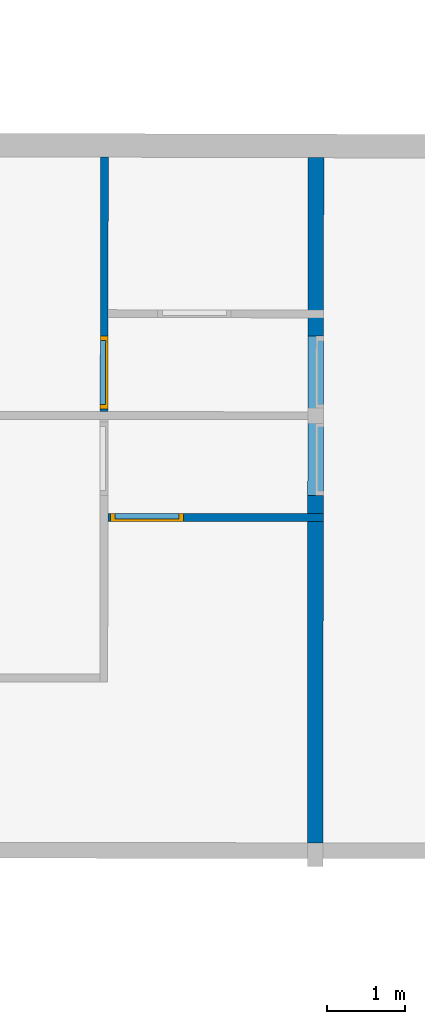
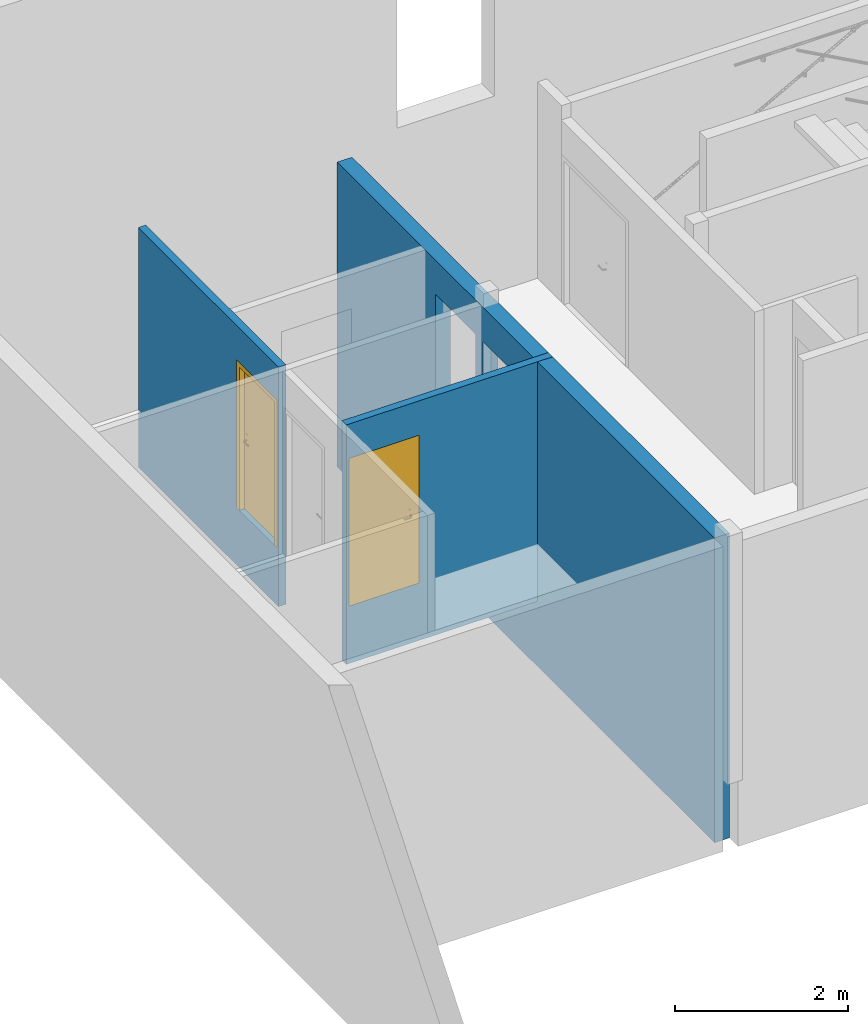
# One storey, part 6 of 24: 3 walls, 2 doors, 7 openings.
"""IFC2X3 building model written with IfcOpenShell, lengths in metres."""

from ifc_helpers import new_model, entity, si_unit, converted_unit, derived_unit, direction, frame, frame_2d, origin, place, context, subcontext, project, spatial, polyline, rectangle, outline, extrude, faceted_brep, source, transform, mapped, material, material_list, layer, layer_set, layer_usage, type_object, type_shapes, element, fill, save


model = new_model("IFC2X3")

# Units and contexts
model_context = context("Model", 3, precision=1e-05, world=origin(), true_north=direction((6.123233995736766e-17, 1.0)))
body_context = subcontext(model_context, "Body", "Model", "MODEL_VIEW")
ifc_project = project(units=[si_unit("LENGTHUNIT", "METRE"), si_unit("AREAUNIT", "SQUARE_METRE"), converted_unit("PLANEANGLEUNIT", "DEGREE", entity("IfcPlaneAngleMeasure", 0.017453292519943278), si_unit("PLANEANGLEUNIT", "RADIAN"), dimensions=[0, 0, 0, 0, 0, 0, 0]), derived_unit("THERMALTRANSMITTANCEUNIT", [(si_unit("MASSUNIT", "GRAM", prefix="KILO"), 1), (si_unit("THERMODYNAMICTEMPERATUREUNIT", "KELVIN"), -1), (si_unit("TIMEUNIT", "SECOND"), -3)])], contexts=[model_context])

# Site, building, storey
site_placement = place(None, frame((1253.6752467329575, 2072.143113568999, 91.49999999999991), z_axis=(0.0, 0.0, 1.0), x_axis=(0.7237211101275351, 0.6900925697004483, 0.0)))
site = spatial("IfcSite", under=ifc_project, at=site_placement, Name="Surface", CompositionType="ELEMENT")
building_placement = place(site_placement, origin())
building = spatial("IfcBuilding", under=site, at=building_placement, CompositionType="ELEMENT")
storey_placement = place(building_placement, frame((0.0, 0.0, -7.049999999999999)))
storey = spatial("IfcBuildingStorey", under=building, at=storey_placement, Name="R-1", CompositionType="ELEMENT", Elevation=-7.049999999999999)

# Wall, openings, door
ifc_material_1 = material(Name="OMD_Béton blanc")
ifc_layer_1 = layer(ifc_material_1, 0.1)
ifc_layer_set_1 = layer_set([ifc_layer_1], Name="Mur de base:MUR 10")
ifc_layer_usage_1 = layer_usage(ifc_layer_set_1, "AXIS2", "NEGATIVE", 0.05)
wall_type_1 = type_object("IfcWallType", Name="Mur de base:MUR 10", PredefinedType="STANDARD", material=ifc_layer_set_1)
wall_1_placement = place(storey_placement, frame((168.08153882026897, 25.53704282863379, -0.08000000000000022), z_axis=(0.0, 0.0, 1.0), x_axis=(-0.6909838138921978, -0.7228702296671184, 0.0)))
wall_1 = element("IfcWallStandardCase", 1, at=wall_1_placement, inside=storey, type_object=wall_type_1, material=ifc_layer_usage_1, Name="Mur de base:MUR 10", ObjectType="Mur de base:MUR 10", context=body_context, shape_type="SweptSolid", body=[
    extrude(outline(polyline([(-0.06666666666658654, -1.499052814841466), (0.033333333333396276, -1.4990528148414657), (0.033333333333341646, -0.29905281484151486), (0.03333333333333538, -0.19905281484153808), (0.033333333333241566, 1.7480370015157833), (-0.06666666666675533, 1.748174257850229), (-0.06666666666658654, -1.499052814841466)])), frame((1.7481742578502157, 0.01666666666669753, 0.0), z_axis=(0.0, 0.0, 1.0), x_axis=(0.0, 1.0, 0.0)), (0.0, 0.0, 1.0), 3.3799999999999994),
])
opening_1_placement = place(storey_placement, frame((168.08153882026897, 25.53704282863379, -0.08000000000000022), z_axis=(0.0, 0.0, 1.0), x_axis=(-0.6909838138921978, -0.7228702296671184, 0.0)))
element("IfcOpeningElement", 2, at=opening_1_placement, cuts=wall_1, Name="Mur de base:MUR 10:1", ObjectType="Opening", context=body_context, shape_type="SweptSolid", body=[
    extrude(rectangle(XDim=2.0850000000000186, YDim=0.9349999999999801, at=frame_2d((0.0, 5.551115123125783e-16), x_axis=(0.0, 1.0))), frame((2.7472270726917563, 0.05000000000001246, 1.8525000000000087), z_axis=(0.0, -1.0, 0.0), x_axis=(1.0, 0.0, 0.0)), (0.0, 0.0, 1.0), 0.09999999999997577),
])
opening_2_placement = place(wall_1_placement, frame((2.2797270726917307, -0.04999999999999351, 0.8099999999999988)))
opening_2 = element("IfcOpeningElement", 3, at=opening_2_placement, cuts=wall_1, Name="OMD_Porte 1V tunnel:80x204:1", ObjectType="Opening", context=body_context, shape_type="SweptSolid", body=[
    extrude(rectangle(XDim=2.0850000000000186, YDim=0.9349999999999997, at=frame_2d((1.0425000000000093, 0.46749999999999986), x_axis=(1.0, 0.0))), frame((0.0, 0.0, 0.0), z_axis=(0.0, 1.0, 0.0), x_axis=(0.0, 0.0, 1.0)), (0.0, 0.0, 1.0), 0.1),
])
ifc_material_2 = material(Name="Porte - Poignée")
ifc_material_3 = material(Name="OMD_Peinture mur")
ifc_material_4 = material(Name="OMD_Bois")
ifc_material_list = material_list([ifc_material_2, ifc_material_3, ifc_material_4])
door_style = type_object("IfcDoorStyle", Name="OMD_Porte 1V tunnel:80x204", ConstructionType="NOTDEFINED", OperationType="NOTDEFINED", ParameterTakesPrecedence=False, Sizeable=False, material=ifc_material_list)
shared_shape = source(origin(), body_context, "Body", "Brep", [
    faceted_brep([(0.8220252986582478, 0.03500000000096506, 1.0077804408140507), (0.8179747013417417, 0.03500000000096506, 1.007780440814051), (0.8139999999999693, 0.03500000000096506, 1.00699999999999), (0.8139999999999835, 0.03500000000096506, 0.9930000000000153), (0.8179747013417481, 0.03500000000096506, 0.9922195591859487), (0.8220252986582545, 0.03500000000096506, 0.9922195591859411), (0.8260000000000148, 0.03500000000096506, 0.9929999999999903), (0.826000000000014, 0.03500000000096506, 1.006999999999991), (0.8139999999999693, 0.05748520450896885, 1.00699999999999), (0.8139999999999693, 0.05748520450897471, 0.9930000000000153), (0.8179747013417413, 0.059131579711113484, 1.007780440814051), (0.8220252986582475, 0.060809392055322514, 1.0077804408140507), (0.8058389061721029, 0.07699578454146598, 1.0077804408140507), (0.8041610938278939, 0.07294518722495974, 1.007780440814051), (0.7207931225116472, 0.07294518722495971, 1.0077804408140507), (0.7191153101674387, 0.07699578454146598, 1.0077804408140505), (0.7114510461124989, 0.06933152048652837, 1.0077804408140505), (0.714315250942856, 0.0664673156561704, 1.0077804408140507), (0.8260000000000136, 0.062455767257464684, 1.006999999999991), (0.8260000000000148, 0.062455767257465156, 0.9929999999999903), (0.8220252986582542, 0.06080939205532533, 0.9922195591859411), (0.8179747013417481, 0.05913157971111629, 0.9922195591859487), (0.8041610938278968, 0.07294518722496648, 0.9922195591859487), (0.8058389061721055, 0.07699578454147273, 0.9922195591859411), (0.7191153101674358, 0.07699578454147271, 0.9922195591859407), (0.7207931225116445, 0.07294518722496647, 0.9922195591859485), (0.7143152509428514, 0.06646731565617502, 0.9922195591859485), (0.7114510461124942, 0.06933152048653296, 0.9922195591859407), (0.8025147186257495, 0.06897048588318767, 1.00699999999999), (0.8025147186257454, 0.06897048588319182, 0.9930000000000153), (0.8074852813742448, 0.08097048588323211, 1.006999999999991), (0.8074852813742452, 0.08097048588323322, 0.9929999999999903), (0.7624771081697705, 0.06897048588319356, 1.0069999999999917), (0.7224394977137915, 0.06897048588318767, 1.0069999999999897), (0.7224394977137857, 0.0689704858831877, 0.9930000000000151), (0.7624771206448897, 0.06897048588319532, 0.9930000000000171), (0.7624771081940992, 0.07512492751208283, 1.0078781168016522), (0.7573994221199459, 0.08097048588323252, 1.0069999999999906), (0.7174689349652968, 0.08097048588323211, 1.0069999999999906), (0.7675547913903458, 0.08097048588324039, 0.9929999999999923), (0.7174689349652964, 0.08097048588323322, 0.99299999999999), (0.762477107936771, 0.07512492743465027, 0.9921218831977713), (0.7086405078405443, 0.07214205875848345, 1.0069999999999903), (0.7086405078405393, 0.07214205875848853, 0.9929999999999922), (0.7171257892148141, 0.06365677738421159, 0.9930000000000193), (0.71712578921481, 0.06365677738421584, 1.0069999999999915)], [[[0, 1, 2, 3, 4, 5, 6, 7]], [[8, 9, 3, 2]], [[1, 10, 8, 2]], [[1, 0, 11, 12, 13, 10]], [[14, 15, 16, 17]], [[7, 18, 11, 0]], [[18, 7, 6, 19]], [[6, 5, 20, 19]], [[5, 4, 21, 22, 23, 20]], [[24, 25, 26, 27]], [[4, 3, 9, 21]], [[28, 29, 9, 8]], [[8, 10, 13, 28]], [[18, 30, 12, 11]], [[31, 30, 18, 19]], [[19, 20, 23, 31]], [[21, 9, 29, 22]], [[29, 28, 32, 33, 34, 35]], [[36, 32, 13]], [[37, 38, 15]], [[37, 12, 30]], [[36, 12, 37]], [[14, 32, 36]], [[36, 15, 14]], [[28, 13, 32]], [[32, 14, 33]], [[12, 36, 13]], [[15, 36, 37]], [[30, 31, 39, 40, 38, 37]], [[23, 41, 39]], [[24, 39, 41]], [[39, 31, 23]], [[39, 24, 40]], [[22, 35, 41]], [[41, 23, 22]], [[41, 35, 25]], [[35, 22, 29]], [[34, 25, 35]], [[24, 41, 25]], [[17, 16, 42, 43, 27, 26, 44, 45]], [[45, 44, 34, 33]], [[33, 14, 17, 45]], [[15, 38, 42, 16]], [[43, 42, 38, 40]], [[24, 27, 43, 40]], [[34, 44, 26, 25]]]),
    faceted_brep([(0.817974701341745, -0.004999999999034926, 1.007780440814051), (0.8220252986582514, -0.004999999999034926, 1.0077804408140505), (0.8260000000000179, -0.004999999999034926, 1.0069999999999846), (0.8260000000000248, -0.004999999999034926, 0.9929999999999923), (0.8220252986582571, -0.004999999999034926, 0.992219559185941), (0.817974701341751, -0.004999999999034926, 0.9922195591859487), (0.8139999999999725, -0.004999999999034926, 0.9930000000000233), (0.8139999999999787, -0.004999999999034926, 1.006999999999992), (0.8220252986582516, -0.03100457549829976, 1.0077804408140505), (0.8260000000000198, -0.03265095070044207, 1.0069999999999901), (0.8179747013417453, -0.02932676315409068, 1.007780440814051), (0.8042986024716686, -0.04300286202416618, 1.007780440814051), (0.8059764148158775, -0.04705345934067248, 1.0077804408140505), (0.7191424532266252, -0.04705345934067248, 1.0077804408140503), (0.7208202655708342, -0.04300286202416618, 1.0077804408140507), (0.714342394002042, -0.03652499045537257, 1.0077804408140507), (0.7114781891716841, -0.039389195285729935, 1.0077804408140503), (0.813999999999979, -0.02768038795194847, 1.006999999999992), (0.8139999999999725, -0.02768038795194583, 0.9930000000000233), (0.817974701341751, -0.029326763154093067, 0.9922195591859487), (0.8220252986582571, -0.031004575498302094, 0.992219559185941), (0.8059764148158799, -0.0470534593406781, 0.992219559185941), (0.804298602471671, -0.04300286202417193, 0.9922195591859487), (0.7208202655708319, -0.04300286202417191, 0.9922195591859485), (0.7191424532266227, -0.047053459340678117, 0.9922195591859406), (0.71147818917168, -0.03938919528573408, 0.9922195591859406), (0.7143423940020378, -0.036524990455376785, 0.9922195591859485), (0.8260000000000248, -0.032650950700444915, 0.9929999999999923), (0.807622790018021, -0.051028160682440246, 1.0069999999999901), (0.8026522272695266, -0.03902816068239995, 1.006999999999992), (0.8026522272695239, -0.03902816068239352, 0.9930000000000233), (0.8076227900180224, -0.05102816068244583, 0.9929999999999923), (0.762559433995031, -0.0451828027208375, 1.0078781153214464), (0.7676923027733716, -0.05102816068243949, 1.0069999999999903), (0.7174960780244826, -0.05102816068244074, 1.00699999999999), (0.7625594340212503, -0.03902816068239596, 1.0069999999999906), (0.7224666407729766, -0.039028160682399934, 1.0069999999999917), (0.7625594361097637, -0.03902816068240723, 0.9930000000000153), (0.7224666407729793, -0.03902816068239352, 0.9930000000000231), (0.7625594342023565, -0.04518280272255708, 0.9921218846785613), (0.7574265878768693, -0.051028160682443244, 0.9929999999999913), (0.7174960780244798, -0.05102816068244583, 0.9929999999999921), (0.7171529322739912, -0.033714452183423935, 0.9930000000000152), (0.7086676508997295, -0.04219973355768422, 0.9929999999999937), (0.7086676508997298, -0.04219973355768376, 1.0069999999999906), (0.717152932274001, -0.03371445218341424, 1.0069999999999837)], [[[0, 1, 2, 3, 4, 5, 6, 7]], [[2, 1, 8, 9]], [[1, 0, 10, 11, 12, 8]], [[13, 14, 15, 16]], [[0, 7, 17, 10]], [[18, 17, 7, 6]], [[5, 19, 18, 6]], [[5, 4, 20, 21, 22, 19]], [[23, 24, 25, 26]], [[3, 27, 20, 4]], [[9, 27, 3, 2]], [[9, 8, 12, 28]], [[10, 17, 29, 11]], [[30, 29, 17, 18]], [[18, 19, 22, 30]], [[20, 27, 31, 21]], [[28, 31, 27, 9]], [[12, 32, 33]], [[13, 33, 32]], [[33, 28, 12]], [[33, 13, 34]], [[11, 35, 32]], [[32, 12, 11]], [[32, 35, 14]], [[35, 11, 29]], [[36, 14, 35]], [[13, 32, 14]], [[29, 30, 37, 38, 36, 35]], [[39, 37, 22]], [[40, 41, 24]], [[40, 21, 31]], [[39, 21, 40]], [[23, 37, 39]], [[39, 24, 23]], [[30, 22, 37]], [[37, 23, 38]], [[21, 39, 22]], [[24, 39, 40]], [[31, 28, 33, 34, 41, 40]], [[42, 26, 25, 43, 44, 16, 15, 45]], [[13, 16, 44, 34]], [[36, 45, 15, 14]], [[42, 45, 36, 38]], [[38, 23, 26, 42]], [[24, 41, 43, 25]], [[44, 43, 41, 34]]]),
    faceted_brep([(0.8199999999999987, 0.030000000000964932, 0.8646410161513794), (0.8303527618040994, 0.03000000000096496, 0.866003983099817), (0.8399999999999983, 0.030000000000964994, 0.8700000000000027), (0.8399999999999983, 0.030000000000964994, 1.0800000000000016), (0.8303527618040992, 0.03000000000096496, 1.0839960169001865), (0.8199999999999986, 0.030000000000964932, 1.0853589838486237), (0.809647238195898, 0.030000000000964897, 1.0839960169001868), (0.7999999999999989, 0.030000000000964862, 1.0800000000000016), (0.7999999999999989, 0.030000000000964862, 0.8700000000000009), (0.8096472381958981, 0.030000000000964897, 0.8660039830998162), (0.8199999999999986, 0.03500000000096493, 1.0853589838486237), (0.8303527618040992, 0.03500000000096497, 1.0839960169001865), (0.8399999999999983, 0.035000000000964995, 1.0800000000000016), (0.8399999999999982, 0.035000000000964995, 0.8700000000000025), (0.8303527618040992, 0.03500000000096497, 0.866003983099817), (0.8199999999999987, 0.03500000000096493, 0.8646410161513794), (0.8096472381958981, 0.0350000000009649, 0.8660039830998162), (0.7999999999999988, 0.03500000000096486, 0.8700000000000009), (0.7999999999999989, 0.03500000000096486, 1.0800000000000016), (0.809647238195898, 0.0350000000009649, 1.0839960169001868)], [[[0, 1, 2, 3, 4, 5, 6, 7, 8, 9]], [[10, 11, 12, 13, 14, 15, 16, 17, 18, 19]], [[6, 19, 18, 7]], [[5, 10, 19, 6]], [[4, 11, 10, 5]], [[4, 3, 12, 11]], [[12, 3, 2, 13]], [[1, 14, 13, 2]], [[0, 15, 14, 1]], [[9, 16, 15, 0]], [[9, 8, 17, 16]], [[17, 8, 7, 18]]]),
    faceted_brep([(0.819999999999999, -0.004999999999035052, 0.8646410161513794), (0.8303527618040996, -0.0049999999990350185, 0.8660039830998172), (0.8399999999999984, -0.004999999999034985, 0.8700000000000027), (0.8399999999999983, -0.004999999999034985, 1.0800000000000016), (0.8303527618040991, -0.0049999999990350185, 1.0839960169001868), (0.8199999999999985, -0.004999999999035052, 1.0853589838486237), (0.8096472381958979, -0.004999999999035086, 1.0839960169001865), (0.7999999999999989, -0.004999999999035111, 1.0800000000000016), (0.7999999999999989, -0.004999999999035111, 0.8700000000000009), (0.8096472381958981, -0.004999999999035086, 0.8660039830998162), (0.8399999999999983, 0.0, 1.0800000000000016), (0.8399999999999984, 0.0, 0.8700000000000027), (0.8303527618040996, 0.0, 0.8660039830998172), (0.819999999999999, 0.0, 0.8646410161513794), (0.8096472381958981, 0.0, 0.8660039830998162), (0.7999999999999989, 0.0, 0.8700000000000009), (0.7999999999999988, 0.0, 1.0800000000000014), (0.8096472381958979, 0.0, 1.0839960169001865), (0.8199999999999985, 0.0, 1.0853589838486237), (0.8303527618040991, 0.0, 1.0839960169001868)], [[[0, 1, 2, 3, 4, 5, 6, 7, 8, 9]], [[10, 11, 12, 13, 14, 15, 16, 17, 18, 19]], [[1, 12, 11, 2]], [[0, 13, 12, 1]], [[9, 14, 13, 0]], [[9, 8, 15, 14]], [[15, 8, 7, 16]], [[6, 17, 16, 7]], [[5, 18, 17, 6]], [[4, 19, 18, 5]], [[4, 3, 10, 19]], [[10, 3, 2, 11]]]),
    faceted_brep([(0.89, 0.030000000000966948, 0.0), (0.89, 0.0, 0.0), (0.04500000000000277, 0.0, 0.0), (0.04500000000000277, 0.030000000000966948, 0.0), (0.89, 0.030000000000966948, 2.04), (0.89, 0.0, 2.04), (0.04500000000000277, 0.0, 2.04), (0.04500000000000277, 0.030000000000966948, 2.04)], [[[0, 1, 2, 3]], [[4, 5, 1, 0]], [[5, 6, 2, 1]], [[6, 7, 3, 2]], [[7, 4, 0, 3]], [[4, 7, 6, 5]]]),
    faceted_brep([(0.9350000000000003, 0.0, 0.0), (0.89, 0.0, 0.0), (0.8900000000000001, 0.03000000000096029, 0.0), (0.8750000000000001, 0.030000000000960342, 0.0), (0.8750000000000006, 0.10000000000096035, 0.0), (0.9350000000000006, 0.10000000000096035, 0.0), (0.9350000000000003, 0.0, 2.085), (0.0, 0.0, 2.085), (0.0, 0.0, 0.0), (0.04500000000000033, 0.0, 0.0), (0.04500000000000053, 0.0, 2.04), (0.8899999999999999, 0.0, 2.0399999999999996), (0.89, 0.030000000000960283, 2.0399999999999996), (0.0450000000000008, 0.03000000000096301, 2.0399999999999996), (0.0450000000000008, 0.030000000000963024, 0.0), (0.060000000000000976, 0.030000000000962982, 0.0), (0.060000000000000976, 0.03000000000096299, 2.0249999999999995), (0.8750000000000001, 0.03000000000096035, 2.025), (0.8750000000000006, 0.10000000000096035, 2.0250000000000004), (0.060000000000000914, 0.10000000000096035, 2.025), (0.060000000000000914, 0.10000000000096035, 0.0), (0.0, 0.10000000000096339, 0.0), (0.0, 0.10000000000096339, 2.085), (0.9350000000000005, 0.10000000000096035, 2.085)], [[[0, 1, 2, 3, 4, 5]], [[1, 0, 6, 7, 8, 9, 10, 11]], [[2, 1, 11, 12]], [[3, 2, 12, 13, 14, 15, 16, 17]], [[4, 3, 17, 18]], [[5, 4, 18, 19, 20, 21, 22, 23]], [[0, 5, 23, 6]], [[7, 22, 21, 8]], [[8, 21, 20, 15, 14, 9]], [[13, 10, 9, 14]], [[19, 16, 15, 20]], [[12, 11, 10, 13]], [[18, 17, 16, 19]], [[6, 23, 22, 7]]]),
])
type_shapes(door_style, [shared_shape])
door_1_placement = place(opening_2_placement, frame((0.9350000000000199, 0.0999999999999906, 0.0), z_axis=(0.0, 0.0, 1.0), x_axis=(-1.0, 0.0, 0.0)))
door_1 = element("IfcDoor", 4, at=door_1_placement, inside=storey, type_object=door_style, material=ifc_material_list, Name="OMD_Porte 1V tunnel:80x204", ObjectType="OMD_Porte 1V tunnel:80x204", OverallHeight=2.0850000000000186, OverallWidth=0.9349999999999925, context=body_context, shape_type="MappedRepresentation", body=[
    mapped(shared_shape, transform((0.0, 0.0, 0.0), scale=1.0)),
])
fill(opening_2, door_1)

# Wall, opening, door
ifc_layer_usage_2 = layer_usage(ifc_layer_set_1, "AXIS2", "NEGATIVE", 0.05)
wall_2_placement = place(storey_placement, frame((166.92896323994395, 20.279092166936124, -0.08000000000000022), z_axis=(0.0, 0.0, 1.0), x_axis=(-0.7228702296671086, 0.6909838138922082, 0.0)))
wall_2 = element("IfcWallStandardCase", 5, at=wall_2_placement, inside=storey, type_object=wall_type_1, material=ifc_layer_usage_2, Name="Mur de base:MUR 10", ObjectType="Mur de base:MUR 10", context=body_context, shape_type="SweptSolid", body=[
    extrude(rectangle(XDim=2.7499962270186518, YDim=0.10000000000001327, at=frame_2d((1.3749981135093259, -3.316791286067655e-15), x_axis=(-1.0, 0.0))), origin(), (0.0, 0.0, 1.0), 3.379999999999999),
])
opening_3_placement = place(wall_2_placement, frame((1.7824962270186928, -0.05000000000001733, 0.8099999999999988)))
opening_3 = element("IfcOpeningElement", 6, at=opening_3_placement, cuts=wall_2, Name="OMD_Porte 1V tunnel:80x204:1", ObjectType="Opening", context=body_context, shape_type="SweptSolid", body=[
    extrude(rectangle(XDim=2.0850000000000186, YDim=0.9349999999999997, at=frame_2d((1.0425000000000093, 0.4675000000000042), x_axis=(1.0, 0.0))), frame((0.0, 0.0, 0.0), z_axis=(0.0, 1.0, 0.0), x_axis=(0.0, 0.0, 1.0)), (0.0, 0.0, 1.0), 0.1),
])
door_2_placement = place(opening_3_placement, frame((0.9350000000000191, 0.10000000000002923, 0.0), z_axis=(0.0, 0.0, 1.0), x_axis=(-1.0, 0.0, 0.0)))
door_2 = element("IfcDoor", 7, at=door_2_placement, inside=storey, type_object=door_style, material=ifc_material_list, Name="OMD_Porte 1V tunnel:80x204", ObjectType="OMD_Porte 1V tunnel:80x204", OverallHeight=2.0850000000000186, OverallWidth=0.9349999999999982, context=body_context, shape_type="MappedRepresentation", body=[
    mapped(shared_shape, transform((0.0, 0.0, 0.0), scale=1.0)),
])
fill(opening_3, door_2)

# Wall, openings
ifc_material_5 = material(Name="Béton - Béton coulé sur place")
ifc_layer_2 = layer(ifc_material_5, 0.2)
ifc_layer_set_2 = layer_set([ifc_layer_2], Name="Mur de base:MUR 20")
ifc_layer_usage_3 = layer_usage(ifc_layer_set_2, "AXIS2", "NEGATIVE", 0.1)
wall_type_2 = type_object("IfcWallType", Name="Mur de base:MUR 20", PredefinedType="STANDARD", material=ifc_layer_set_2)
wall_3_placement = place(storey_placement, frame((170.03077512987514, 23.668757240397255, -1.0), z_axis=(0.0, 0.0, 1.0), x_axis=(-0.6909838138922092, -0.7228702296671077, 0.0)))
wall_3 = element("IfcWallStandardCase", 8, at=wall_3_placement, inside=storey, type_object=wall_type_2, material=ifc_layer_usage_3, Name="Mur de base:MUR 20", ObjectType="Mur de base:MUR 20", context=body_context, shape_type="SweptSolid", body=[
    extrude(outline(polyline([(-0.10000000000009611, -4.371726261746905), (0.09999999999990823, -4.371726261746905), (0.1000000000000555, 4.3715890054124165), (-0.09999999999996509, 4.371863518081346), (-0.10000000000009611, -4.371726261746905)])), frame((4.371863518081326, 0.0, 0.0), z_axis=(0.0, 0.0, 1.0), x_axis=(0.0, 1.0, 0.0)), (0.0, 0.0, 1.0), 4.299999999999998),
])
opening_4_placement = place(storey_placement, frame((170.03077512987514, 23.668757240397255, -1.0), z_axis=(0.0, 0.0, 1.0), x_axis=(-0.6909838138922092, -0.7228702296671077, 0.0)))
element("IfcOpeningElement", 9, at=opening_4_placement, cuts=wall_3, Name="Mur de base:MUR 20:1", ObjectType="Opening", context=body_context, shape_type="SweptSolid", body=[
    extrude(rectangle(XDim=2.0850000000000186, YDim=0.9349999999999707, at=frame_2d((-5.551115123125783e-16, -1.582067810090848e-15), x_axis=(1.0, 0.0))), frame((3.8435897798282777, 0.09999999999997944, 2.7725000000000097), z_axis=(0.0, -1.0, 0.0), x_axis=(0.0, 0.0, 1.0)), (0.0, 0.0, 1.0), 0.19999999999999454),
])
opening_5_placement = place(storey_placement, frame((170.03077512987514, 23.668757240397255, -1.0), z_axis=(0.0, 0.0, 1.0), x_axis=(-0.6909838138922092, -0.7228702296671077, 0.0)))
element("IfcOpeningElement", 10, at=opening_5_placement, cuts=wall_3, Name="Mur de base:MUR 20:2", ObjectType="Opening", context=body_context, shape_type="SweptSolid", body=[
    extrude(rectangle(XDim=2.0850000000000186, YDim=0.9350000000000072, at=frame_2d((-1.6681100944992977e-14, 5.551115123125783e-16), x_axis=(0.0, 1.0))), frame((2.7435897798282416, 0.09999999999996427, 2.772500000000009), z_axis=(0.0, -1.0, 0.0), x_axis=(1.0, 0.0, 0.0)), (0.0, 0.0, 1.0), 0.1999999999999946),
])
opening_6_placement = place(wall_3_placement, frame((3.2110897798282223, 0.10000000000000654, 1.7299999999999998)))
element("IfcOpeningElement", 11, at=opening_6_placement, cuts=wall_3, Name="OMD_Porte 1V tunnel:80x204:1", ObjectType="Opening", context=body_context, shape_type="SweptSolid", body=[
    extrude(rectangle(XDim=2.0850000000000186, YDim=0.9349999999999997, at=frame_2d((1.0425000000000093, 0.46749999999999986), x_axis=(1.0, 0.0))), frame((0.0, 0.0, 0.0), z_axis=(0.0, -1.0, 0.0), x_axis=(0.0, 0.0, 1.0)), (0.0, 0.0, 1.0), 0.19999999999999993),
])
opening_7_placement = place(wall_3_placement, frame((4.311089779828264, 0.1000000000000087, 1.7299999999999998)))
element("IfcOpeningElement", 12, at=opening_7_placement, cuts=wall_3, Name="OMD_Porte 1V tunnel:80x204:1", ObjectType="Opening", context=body_context, shape_type="SweptSolid", body=[
    extrude(rectangle(XDim=2.0850000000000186, YDim=0.9349999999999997, at=frame_2d((1.0425000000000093, 0.46749999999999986), x_axis=(1.0, 0.0))), frame((0.0, 0.0, 0.0), z_axis=(0.0, -1.0, 0.0), x_axis=(0.0, 0.0, 1.0)), (0.0, 0.0, 1.0), 0.19999999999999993),
])

save(model, "model.ifc")
